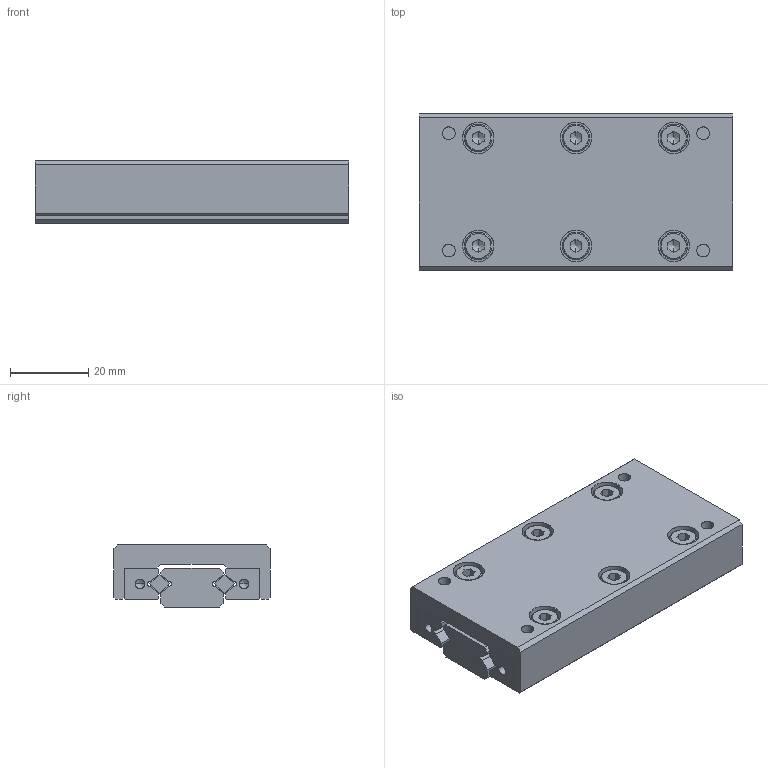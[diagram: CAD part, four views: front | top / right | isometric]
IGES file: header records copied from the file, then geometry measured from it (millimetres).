
Global section: file name: No Iges File Name specified; native system: AutoDesk Inventor R10; preprocessor: AutoDesk Inventor Iges Exporter R10; author: No Author specified; organization: No Organization specified; date: 20101224.112601; units: millimetre
Bounding box: 80 x 40 x 16 mm (x, y, z)
Surface area: 21390.4 mm2 (no closed solid volume)
Topology: 0 solids, 0 shells, 363 faces, 2204 edges, 2184 vertices
Faces by surface type: bspline 363
